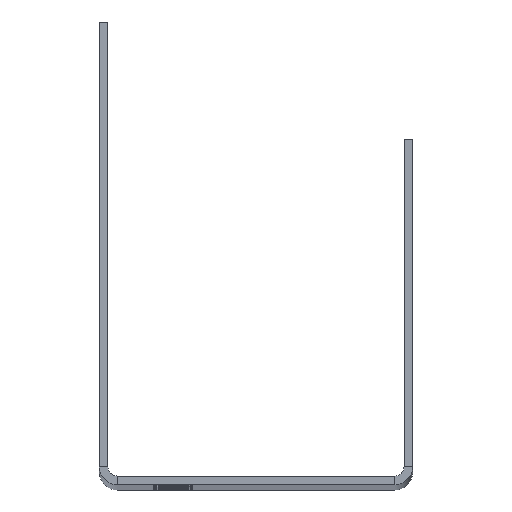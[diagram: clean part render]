
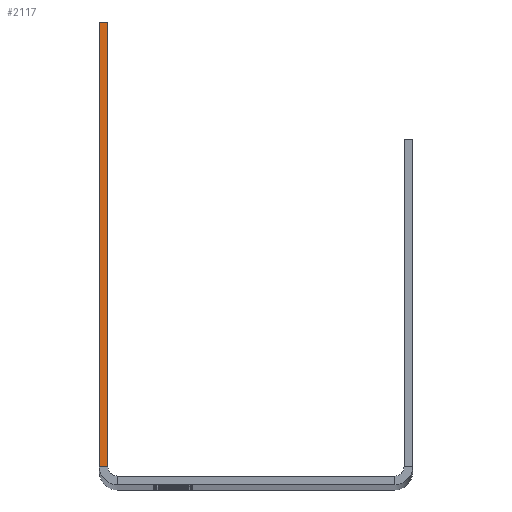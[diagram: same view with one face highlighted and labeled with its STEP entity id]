
A CAD part, top view. The second image highlights one B-rep face of the part: STEP entity #2117.
In plain terms, the highlighted free-form (B-spline) face has degree [1, 1] with [2, 2] control points.
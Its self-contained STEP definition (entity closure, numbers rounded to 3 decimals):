
#1858=CARTESIAN_POINT('V60',(1969.563,
   2599.892,1271.365));
#1859=VERTEX_POINT('V60',#1858);
#1903=CARTESIAN_POINT('V59',(1969.563,
   2671.977,1271.365));
#1904=VERTEX_POINT('V59',#1903);
#1905=CARTESIAN_POINT('E64',(1969.563,
   2671.977,1271.365));
#1906=CARTESIAN_POINT('E64',(1969.563,
   2599.892,1271.365));
#1907=B_SPLINE_CURVE_WITH_KNOTS('E64',1,(#1905,#1906),
   .POLYLINE_FORM.,.F.,.U.,(2,2),(0.054,
   0.946),.UNSPECIFIED.);
#1908=EDGE_CURVE('E64',#1904,#1859,#1907,.T.);
#1980=CARTESIAN_POINT('V26',(1968.166,
   2671.977,1271.365));
#1981=VERTEX_POINT('V26',#1980);
#1993=CARTESIAN_POINT('E103',(1968.166,
   2671.977,1271.365));
#1994=CARTESIAN_POINT('E103',(1969.563,
   2671.977,1271.365));
#1995=QUASI_UNIFORM_CURVE('E103',1,(#1993,#1994),.POLYLINE_FORM.,.F.,
   .U.);
#1996=EDGE_CURVE('E103',#1981,#1904,#1995,.T.);
#2061=CARTESIAN_POINT('V25',(1968.166,
   2599.892,1271.365));
#2062=VERTEX_POINT('V25',#2061);
#2092=CARTESIAN_POINT('E104',(1968.166,
   2599.892,1271.365));
#2093=CARTESIAN_POINT('E104',(1969.563,
   2599.892,1271.365));
#2094=QUASI_UNIFORM_CURVE('E104',1,(#2092,#2093),.POLYLINE_FORM.,.F.,
   .U.);
#2095=EDGE_CURVE('E104',#2062,#1859,#2094,.T.);
#2102=CARTESIAN_POINT('F32',(1968.166,
   2671.977,1271.365));
#2103=CARTESIAN_POINT('F32',(1968.166,
   2599.892,1271.365));
#2104=CARTESIAN_POINT('F32',(1969.563,
   2671.977,1271.365));
#2105=CARTESIAN_POINT('F32',(1969.563,
   2599.892,1271.365));
#2106=QUASI_UNIFORM_SURFACE('F32',1,1,((#2102,#2104),(#2103,#2105))
,.PLANE_SURF.,.F.,.F.,.U.);
#2107=CARTESIAN_POINT('E25',(1968.166,
   2671.977,1271.365));
#2108=CARTESIAN_POINT('E25',(1968.166,
   2599.892,1271.365));
#2109=QUASI_UNIFORM_CURVE('E25',1,(#2107,#2108),.POLYLINE_FORM.,.F.,
   .U.);
#2110=EDGE_CURVE('E25',#1981,#2062,#2109,.T.);
#2111=ORIENTED_EDGE('E25',*,*,#2110,.F.);
#2112=ORIENTED_EDGE('F31',*,*,#1996,.T.);
#2113=ORIENTED_EDGE('E64',*,*,#1908,.T.);
#2114=ORIENTED_EDGE('E104',*,*,#2095,.F.);
#2115=EDGE_LOOP('F32',(#2111,#2112,#2113,#2114));
#2116=FACE_OUTER_BOUND('F32',#2115,.F.);
#2117=ADVANCED_FACE('F32',(#2116),#2106,.T.);
